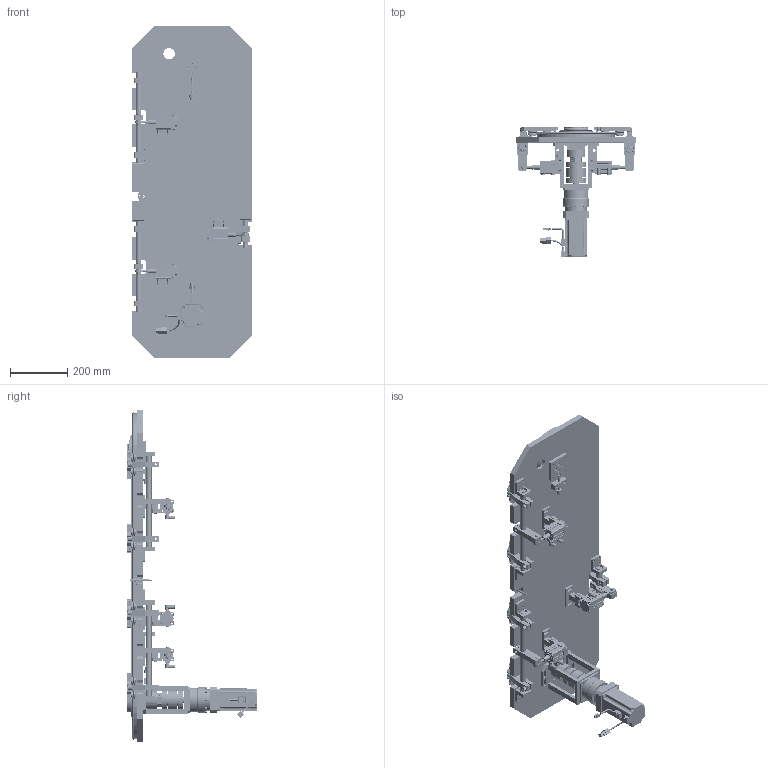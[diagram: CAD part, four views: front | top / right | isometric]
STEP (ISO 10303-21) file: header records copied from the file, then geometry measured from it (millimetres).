
FILE_DESCRIPTION (( 'STEP AP214' ), '1' );
FILE_NAME ('9.26-HC-H.STEP', '2022-09-26T08:17:44', ( '' ), ( '' ), 'SwSTEP 2.0', 'SolidWorks 2016', '' );
FILE_SCHEMA (( 'AUTOMOTIVE_DESIGN' ));
Length unit declared in the file: millimetre
Products named in the file (61): 9.26-HC-SC21-AMA01-TB1-蚐碟-H; 9.26-HC-SC19-ABA01-LA1-眻寢酗僅A-H; 9.26-HC-SC21-EAC02-TB1-菁啣ァ詰粣創釱-H_BHLC6003ZZ-40-KCA; 9.26-HC-255-々湍苤陬郪-H; 9.26-HC-6006-2Z-H; 9.26-HC-255翋雄謫郪-H; 9.26-HC-SC21-FAA01-TB1-6006U倰鎮湛盓殤-H; 9.26-HC-SC21-DBB01-TB1-6006湍謫翋雄粣陑-H; 9.26-HC-SC21-AGA01-TB1-幗謫脹詢菜え-H; 9.26-HC-SC21-EDB02-TB1-ァ詰蟀諉邧嫉-H; 9.26-HC-SC21-DAB01-TB1-翋雄粣創釱6006-H; 9.26-HC-ACQ 32×20S_ACQ32-100超薄气缸-H_ACQ 32×20-1; 9.26-HC-SC21-EDA02-TB1-ァ詰蟀諉等嫉-H; 9.26-HC-籵蚚桲踡郪-H; 9.26-HC-SC19-AIA01-LA1-幗謫蚳蚚蹟譫-H; 9.26-HC-SC21-EFB02-TB1-底板感应开关支架-外-H; 9.26-HC-SC21-DHC01-TB1-桲踡蹟佪-H; 9.26-HC-联轴器68-75-22-22-6T-H; 9.26-HC-单定位摆臂组-底板外-H; 9.26-HC-SC21-DEA03-TB1-6006植雄粣陑菁釱-H; 9.26-HC-E2B_S08LN04_WP_C1（NPN）-H; 9.26-HC-SC21-BDA01-TB1-々湍結啣-H; 9.26-HC-熬厒儂DAB90-L2-H; 9.26-HC-SC21-BCA02-TB1-皮带挡圈255-H; 9.26-HC-SC21-ECA01-TB1-啊旋蟀諉粣-H; 9.26-HC-SC21-DDA02-TB1-M27-3.0滅侂蹟譫-H; 々湍1-1^9.26-HC-H; 9.26-HC-SC21-DCA01-TB1-翋雄粣傷裔-255-H; 9.26-HC-SC21-EEA02-TB1-雄薯啊旋-H; 9.26-HC-SC21-EGA01-TB1-等啊旋嫖粣-H; 9.26-HC-SC19-AFA01-LA1-幗謫-H; 9.26-HC-邧啊旋嫖粣-H; 9.26-HC-SC21-DFA01-TB1-6006菁啣植雄粣陑-H; 9.26-HC-SC21-BAA02-TB1-翋雄謫36C-H_AT10x40-20A; 9.26-HC-SC21-APA01-TB1-々湍諶璃-H; 9.26-HC-SC21-EEB02-TB1-隅弇啊旋-H; 9.26-HC-750W萇儂郪-H; 9.26-HC-SC21-ADA02-TB1-々湍蟀諉蜇璃-H; 9.26-HC-底板感应开关组-定位-H; 9.26-HC-SC21-AEA01-TB1-摆臂式定位附件-外-H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
Assembly tree (110 placements, depth 4):
  9.26-HC-H
    9.26-HC-255湍謫GMP郪-H
      9.26-HC-SC19-ABA01-LA1-眻寢酗僅A-H  x2
      9.26-HC-SC21-ACB02-TB1-轻载环轨255-H  x2
      9.26-HC-255-々湍苤陬郪-H  x8
        9.26-HC-SC21-AAA-TB1-苤陬啣255-H
        9.26-HC-SC21-AEA01-TB1-摆臂式定位附件-外-H
        9.26-HC-SC21-AGA01-TB1-幗謫脹詢菜え-H
        9.26-HC-SC21-AMA01-TB1-蚐碟-H
        9.26-HC-SC19-AFA01-LA1-幗謫-H
        9.26-HC-SC19-ANA01-LA1-肮陑幗謫粣-H
        9.26-HC-SC19-AOA01-LA1-ぇ陑幗謫粣-H
        9.26-HC-SC19-AIA01-LA1-幗謫蚳蚚蹟譫-H
        9.26-HC-SC19-AHA01-LA1-幗謫蚳蚚菜え-H
        9.26-HC-SC21-ADA02-TB1-々湍蟀諉蜇璃-H
        9.26-HC-SC21-ANA01-TB1-鬥芛M8蹟裝-H
        9.26-HC-SC21-APA01-TB1-々湍諶璃-H
    9.26-HC-255耀攜菁啣-1-H
    9.26-HC-255植雄謫郪-H
      9.26-HC-6006植雄郪-H
        9.26-HC-SC21-DFA01-TB1-6006菁啣植雄粣陑-H
        9.26-HC-6006-2Z-H  x2
        9.26-HC-SC21-DGA01-TB1-6006植雄粣傷裔-H
        9.26-HC-SC21-DEA03-TB1-6006植雄粣陑菁釱-H
        9.26-HC-SC21-DHA01-TB1-桲踡輸-H
        9.26-HC-SC21-DHC01-TB1-桲踡蹟佪-H
      9.26-HC-SC21-BBA02-TB1-255植雄謫-H
    9.26-HC-255翋雄謫郪-H
      9.26-HC-SC21-DAB01-TB1-翋雄粣創釱6006-H
      9.26-HC-SC21-DBB01-TB1-6006湍謫翋雄粣陑-H
      9.26-HC-6006-2Z-H  x2
      9.26-HC-籵蚚桲踡郪-H
        9.26-HC-SC21-DHA01-TB1-桲踡輸-H
        9.26-HC-SC21-DHB01-TB1-桲踡蜇璃-H
        9.26-HC-SC21-DHC01-TB1-桲踡蹟佪-H
      9.26-HC-SC21-DDA02-TB1-M27-3.0滅侂蹟譫-H
      9.26-HC-SC21-DCA01-TB1-翋雄粣傷裔-255-H
      9.26-HC-SC21-BAA02-TB1-翋雄謫36C-H_AT10x40-20A
      9.26-HC-SC21-BCA02-TB1-皮带挡圈255-H  x2
    9.26-HC-单定位摆臂组-底板外-H
      9.26-HC-SC21-EAC02-TB1-菁啣ァ詰粣創釱-H_BHLC6003ZZ-40-KCA  x2
      9.26-HC-6003-H  x2
      9.26-HC-SC21-EEB02-TB1-隅弇啊旋-H
      9.26-HC-SC21-EGA01-TB1-等啊旋嫖粣-H
      9.26-HC-随动器16-H_KRV 168
      9.26-HC-SC21-EEA02-TB1-雄薯啊旋-H
      9.26-HC-SC21-ECB01-TB1-ァ詰蟀諉粣-H
      9.26-HC-SC21-ECA01-TB1-啊旋蟀諉粣-H
      9.26-HC-ACQ 32×20S_ACQ32-100超薄气缸-H_ACQ 32×20-1
      9.26-HC-SC21-EDB02-TB1-ァ詰蟀諉邧嫉-H
      9.26-HC-SC21-EDA02-TB1-ァ詰蟀諉等嫉-H
      9.26-HC-隅弇郪赶桉粣創-m8-30-H
    9.26-HC-双定位摆臂组-底板外-H  x2
      9.26-HC-SC21-EAC02-TB1-菁啣ァ詰粣創釱-H_BHLC6003ZZ-40-KCA
      9.26-HC-6003-H
      9.26-HC-SC21-EEB02-TB1-隅弇啊旋-H
      9.26-HC-邧啊旋嫖粣-H
      9.26-HC-随动器16-H_KRV 168
      9.26-HC-SC21-EEA02-TB1-雄薯啊旋-H
      9.26-HC-SC21-ECB01-TB1-ァ詰蟀諉粣-H
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Bounding box: 420 x 454.6 x 1160 mm (x, y, z)
Volume: 14693740.4 mm3; surface area: 3021672.8 mm2
Topology: 549 solids, 556 shells, 13603 faces, 33729 edges, 21435 vertices
Faces by surface type: plane 6064, cylinder 4726, bspline 1960, cone 687, torus 139, sphere 27
Entity records: 135268 total; most frequent: CARTESIAN_POINT 42334, ORIENTED_EDGE 18708, DIRECTION 18153, EDGE_CURVE 9354, AXIS2_PLACEMENT_3D 6750, VERTEX_POINT 6116, LINE 4653, VECTOR 4653
